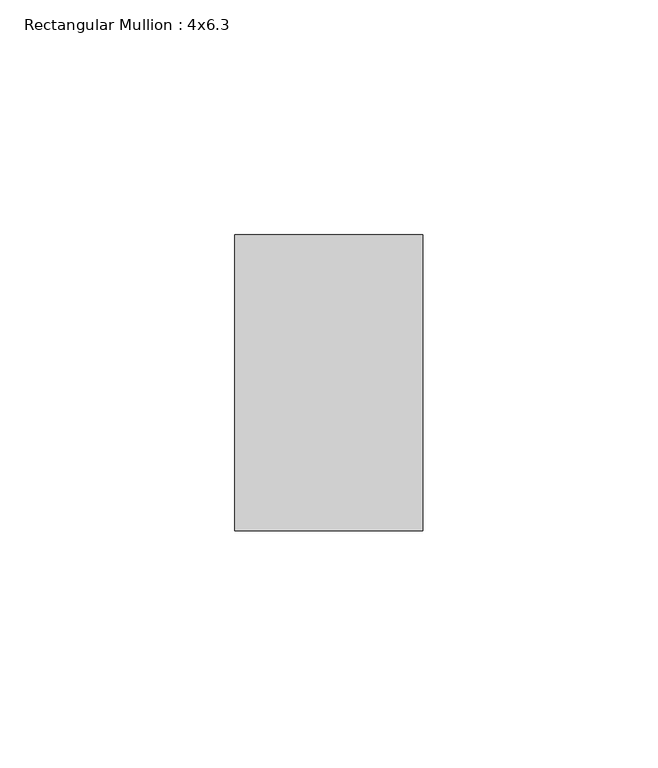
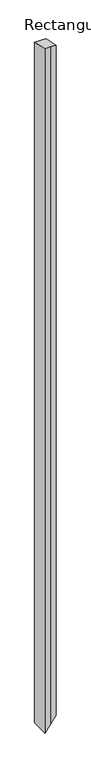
"""IFC4 building model written with IfcOpenShell, lengths in millimetres: member geometry, Rectangular Mullion : 4x6.3."""

from ifc_helpers import new_model, si_unit, origin, place, context, project, spatial, faceted_brep, source, transform, mapped, element, save


def rectangular_mullion_4x6_3_1457fcb9(model_context):
    return source(origin(), model_context, "Body", "Brep", [
        faceted_brep([(0.0, 20.0, -4.3995804), (-20.0, 20.0, -4.3995804), (-20.0, 20.0, -2586.460764), (0.0, 20.0, -2560.040007), (20.0, 20.0, -4.3995804), (20.0, 20.0, -2533.6192501), (20.0, 83.0, -18.2582585), (20.0, 83.0, -2533.6192501), (-20.0, 83.0, -18.2582585), (-20.0, 83.0, -2586.460764)], [[[0, 1, 2, 3]], [[4, 0, 3, 5]], [[6, 4, 5, 7]], [[8, 6, 7, 9]], [[1, 8, 9, 2]], [[1, 0, 4, 6, 8]], [[2, 9, 7, 5, 3]]]),
    ])


if __name__ == "__main__":
    model = new_model("IFC4")
    model_context = context("Model", 3, world=origin())
    ifc_project = project(units=[si_unit("LENGTHUNIT", "METRE", prefix="MILLI")], contexts=[model_context])
    site = spatial("IfcSite", under=ifc_project)
    building = spatial("IfcBuilding", under=site)
    placement = place(None, origin())
    rectangular_mullion_4x6_3_shape = rectangular_mullion_4x6_3_1457fcb9(model_context)
    element("IfcMember", 1, ObjectType="Rectangular Mullion : 4x6.3", at=placement, inside=building, context=model_context, shape_type="MappedRepresentation", body=[
        mapped(rectangular_mullion_4x6_3_shape, transform((0.0, 0.0, 0.0), x_axis=(1.0, 0.0, 0.0), y_axis=(0.0, 1.0, 0.0), z_axis=(0.0, 0.0, 1.0))),
    ])
    save(model, "model.ifc")
